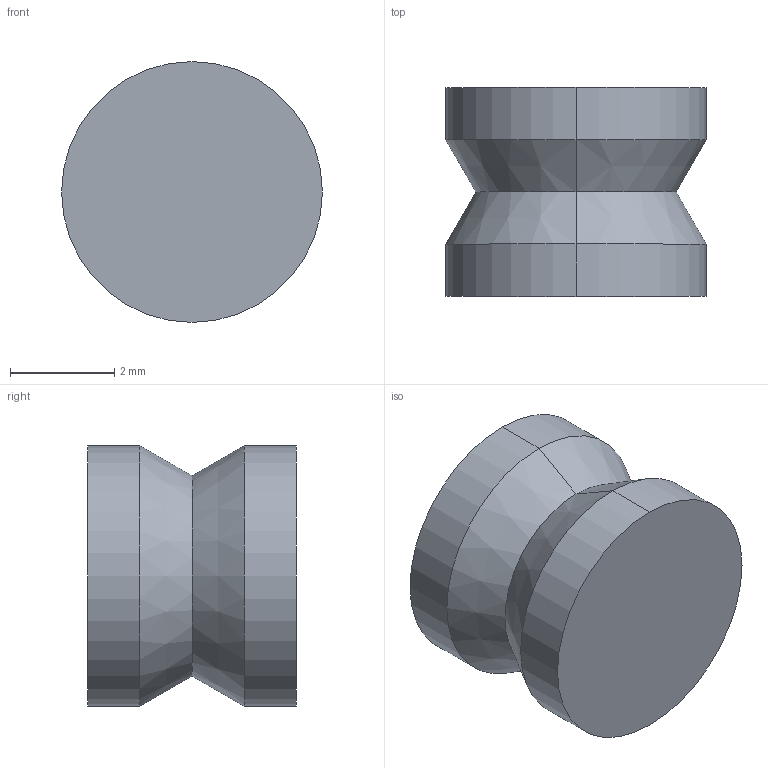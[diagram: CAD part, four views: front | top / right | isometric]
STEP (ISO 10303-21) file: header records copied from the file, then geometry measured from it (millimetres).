
FILE_DESCRIPTION (( 'STEP AP214' ), '1' );
FILE_NAME ('Pressure Vessel Anvil_Top Cone.STEP', '2023-02-21T22:39:09', ( '' ), ( '' ), 'SwSTEP 2.0', 'SolidWorks 2022', '' );
FILE_SCHEMA (( 'AUTOMOTIVE_DESIGN' ));
Length unit declared in the file: millimetre
Products named in the file (1): Pressure Vessel Anvil_Top Cone
Bounding box: 5 x 4 x 5 mm (x, y, z)
Volume: 64 mm3; surface area: 105.1 mm2
Topology: 1 solids, 1 shells, 12 faces, 24 edges, 13 vertices
Faces by surface type: cone 6, cylinder 4, plane 2
Entity records: 332 total; most frequent: DIRECTION 60, CARTESIAN_POINT 48, ORIENTED_EDGE 44, AXIS2_PLACEMENT_3D 25, EDGE_CURVE 22, EDGE_LOOP 13, VERTEX_POINT 13, ADVANCED_FACE 12
